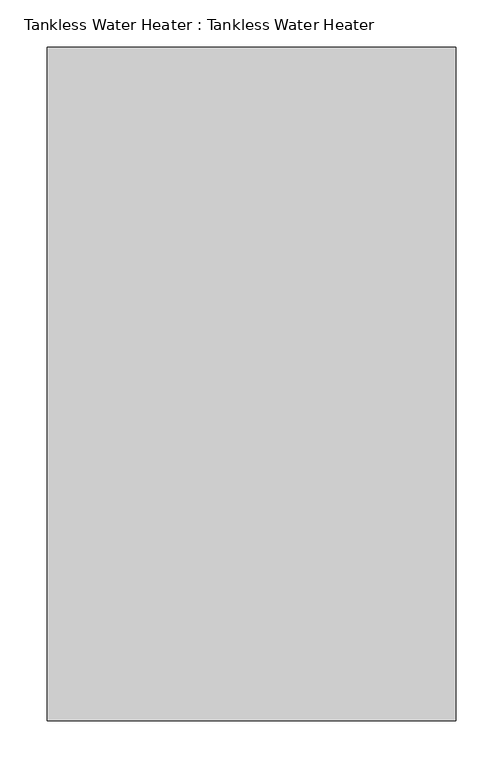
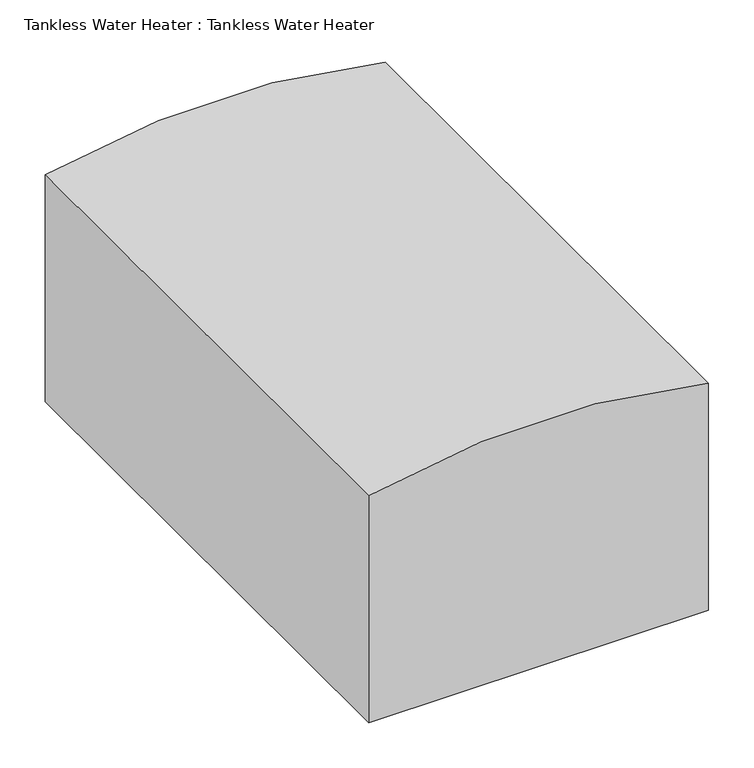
"""IFC4 building model written with IfcOpenShell, lengths in millimetres: flow terminal geometry, Tankless Water Heater : Tankless Water Heater."""

from ifc_helpers import new_model, si_unit, point, frame, frame_2d, origin, place, context, project, spatial, polyline, circle_curve, trimmed, segment, composite_curve, outline, extrude, source, transform, mapped, element, save


def tankless_water_heater_tankless_water_heater_312b1451(model_context):
    return source(origin(), model_context, "Body", "SweptSolid", [
        extrude(outline(composite_curve([segment(polyline([(304.8, -215.9), (0.0, -215.9), (0.0, 215.9), (304.8, 215.9)]), True, "CONTINUOUS"), segment(trimmed(circle_curve(frame_2d((-600.075, 0.0)), 930.275), [point((304.8, 215.9))], [point((304.8, -215.9))], False, "CARTESIAN"), True, "CONTINUOUS")], self_intersect=False)), frame((0.0, -355.6, 0.0), z_axis=(0.0, 1.0, 0.0), x_axis=(0.0, 0.0, 1.0)), (0.0, 0.0, 1.0), 711.2),
    ])


if __name__ == "__main__":
    model = new_model("IFC4")
    model_context = context("Model", 3, world=origin())
    ifc_project = project(units=[si_unit("LENGTHUNIT", "METRE", prefix="MILLI")], contexts=[model_context])
    site = spatial("IfcSite", under=ifc_project)
    building = spatial("IfcBuilding", under=site)
    placement = place(None, origin())
    tankless_water_heater_tankless_water_heater_shape = tankless_water_heater_tankless_water_heater_312b1451(model_context)
    element("IfcFlowTerminal", 1, ObjectType="Tankless Water Heater : Tankless Water Heater", at=placement, inside=building, context=model_context, shape_type="MappedRepresentation", body=[
        mapped(tankless_water_heater_tankless_water_heater_shape, transform((0.0, 0.0, 0.0), x_axis=(1.0, 0.0, 0.0), y_axis=(0.0, 1.0, 0.0), z_axis=(0.0, 0.0, 1.0))),
    ])
    save(model, "model.ifc")
